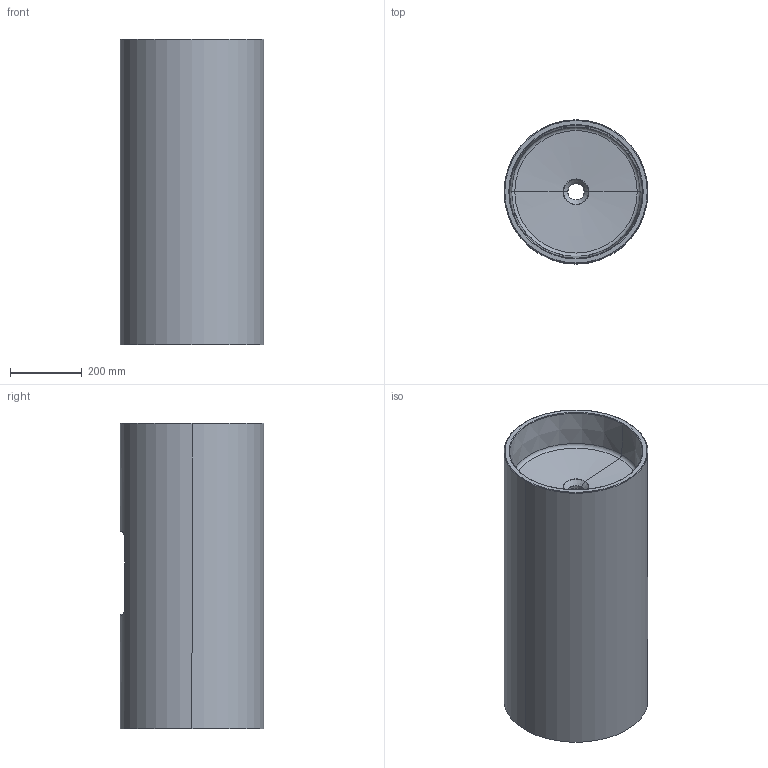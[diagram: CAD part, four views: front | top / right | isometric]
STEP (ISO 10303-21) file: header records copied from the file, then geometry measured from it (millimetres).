
FILE_DESCRIPTION((''),'2;1');
FILE_NAME('0076','2021-12-17T16:31:30',('Administrator'),(''),'CREO PARAMETRIC BY PTC INC, 2019010','CREO PARAMETRIC BY PTC INC, 2019010','');
FILE_SCHEMA(('CONFIG_CONTROL_DESIGN'));
Length unit declared in the file: millimetre
Products named in the file (1): 0076
Bounding box: 400 x 400 x 850 mm (x, y, z)
Volume: 25780499.6 mm3; surface area: 2145706.1 mm2
Topology: 1 solids, 1 shells, 51 faces, 110 edges, 62 vertices
Faces by surface type: torus 16, cylinder 10, bspline 10, cone 8, plane 7
Entity records: 2243 total; most frequent: CARTESIAN_POINT 1122, DIRECTION 238, ORIENTED_EDGE 220, EDGE_CURVE 110, AXIS2_PLACEMENT_3D 107, CIRCLE 66, VERTEX_POINT 62, EDGE_LOOP 56
